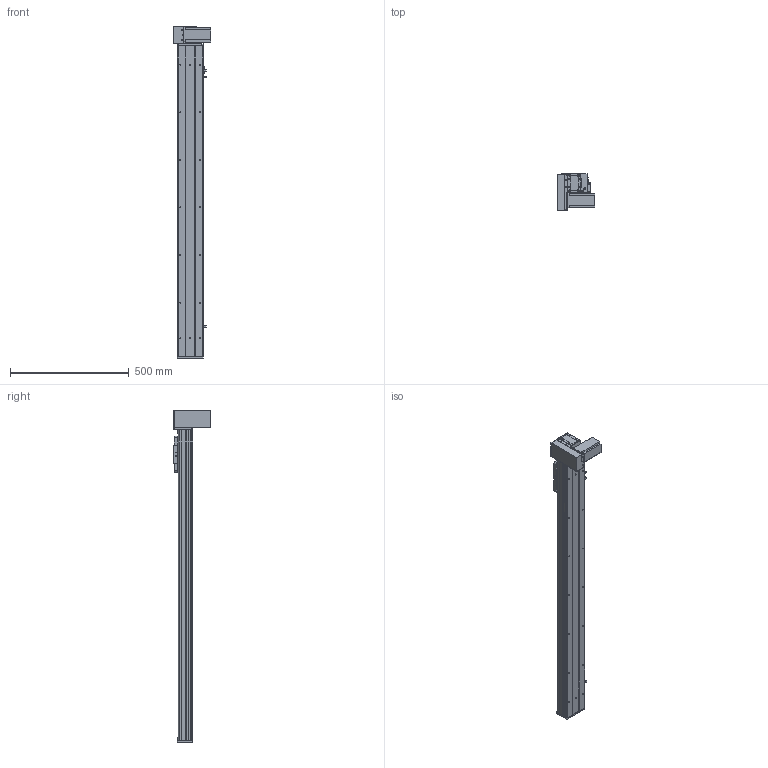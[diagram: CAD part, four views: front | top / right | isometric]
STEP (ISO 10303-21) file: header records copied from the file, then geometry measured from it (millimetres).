
FILE_DESCRIPTION (( 'STEP AP203' ), '1' );
FILE_NAME ('Y10CB-D90-S1050-BM-P400W.STEP', '2020-02-16T09:02:57', ( '微软用户' ), ( '微软中国' ), 'SwSTEP 2.0', 'SolidWorks 2017', '' );
FILE_SCHEMA (( 'CONFIG_CONTROL_DESIGN' ));
Length unit declared in the file: millimetre
Products named in the file (18): 00B-俋欶BM--; 10CB-詩湍-; Y10B-耜蚾蟀諉啣----; Y10CB- 掛极耜裔啣-毀---; 0CB-雄赽釱---; Y10CB-D90-S1050-BM-P400W; Y10C---詩湍揤啣; 0Cb-俋欶---; 0B-埴倛裔啣; 10CB9-掛极; Y10B-々湍喘謫眊楊擘啣--; 10CB-耜裔; 0B-萇儂楊擘啣; Y135C-陔俋离換覜結え-; san松下电机400不带刹车----; Y100-135俋离換覜ん--; 0B-源倛裔啣; Y10B--々湍喘謫眊--666
Assembly tree (21 placements, depth 2):
  Y10CB-D90-S1050-BM-P400W
    0CB-雄赽釱---
    0Cb-俋欶---
    Y10B-々湍喘謫眊楊擘啣--
    0B-萇儂楊擘啣
    san松下电机400不带刹车----
    0B-源倛裔啣
    0B-埴倛裔啣
    10CB-詩湍-
    Y10CB- 掛极耜裔啣-毀---  x2
    Y10C---詩湍揤啣  x2
    10CB9-掛极
    10CB-耜裔
    Y135C-陔俋离換覜結え-
    Y100-135俋离換覜ん--  x3
    Y10B--々湍喘謫眊--666
    00B-俋欶BM--
    Y10B-耜蚾蟀諉啣----
Bounding box: 157 x 156 x 1396 mm (x, y, z)
Volume: 3223217.9 mm3; surface area: 1455525.9 mm2
Topology: 21 solids, 21 shells, 990 faces, 2643 edges, 1730 vertices
Faces by surface type: cylinder 489, plane 477, cone 24
Entity records: 30912 total; most frequent: CARTESIAN_POINT 5469, DIRECTION 4998, ORIENTED_EDGE 4756, EDGE_CURVE 2378, AXIS2_PLACEMENT_3D 1789, VERTEX_POINT 1556, VECTOR 1420, LINE 1420
